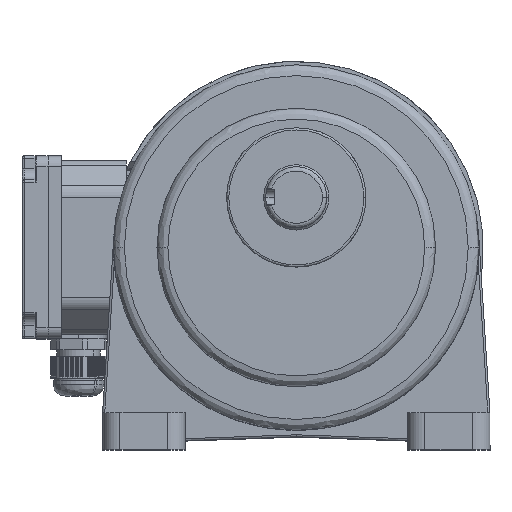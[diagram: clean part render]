
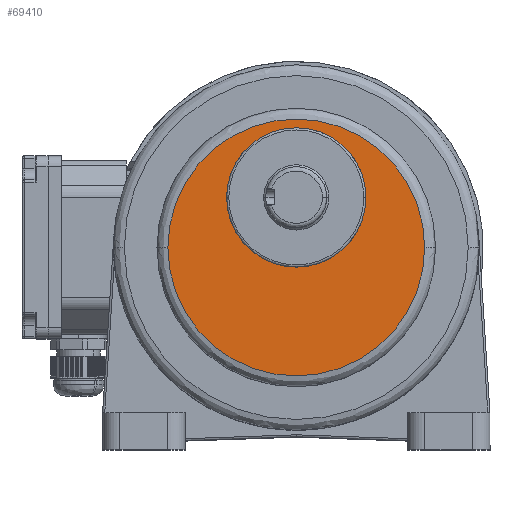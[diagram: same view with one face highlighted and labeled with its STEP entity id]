
A CAD part, top view. The second image highlights one B-rep face of the part: STEP entity #69410.
In plain terms, the highlighted planar face has unit normal (0, 0, 1).
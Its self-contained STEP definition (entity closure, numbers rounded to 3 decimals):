
#17059 = EDGE_CURVE ( 'NONE', #48671, #48673, #85587, .T. ) ;
#17079 = EDGE_CURVE ( 'NONE', #49710, #49718, #85611, .T. ) ;
#17203 = EDGE_CURVE ( 'NONE', #48673, #48671, #85699, .T. ) ;
#17309 = EDGE_CURVE ( 'NONE', #49718, #49710, #85737, .T. ) ;
#17881 = ORIENTED_EDGE ( 'NONE', *, *, #17079, .F. ) ;
#17882 = ORIENTED_EDGE ( 'NONE', *, *, #17309, .F. ) ;
#17883 = ORIENTED_EDGE ( 'NONE', *, *, #17203, .T. ) ;
#17884 = ORIENTED_EDGE ( 'NONE', *, *, #17059, .T. ) ;
#19669 = CARTESIAN_POINT ( 'NONE',  ( -59., 0., 94.5 ) ) ;
#19670 = CARTESIAN_POINT ( 'NONE',  ( 59., 0., 94.5 ) ) ;
#19727 = CARTESIAN_POINT ( 'NONE',  ( 32., 23., 94.5 ) ) ;
#19728 = CARTESIAN_POINT ( 'NONE',  ( -32., 23., 94.5 ) ) ;
#48671 = VERTEX_POINT ( 'NONE', #19669 ) ;
#48673 = VERTEX_POINT ( 'NONE', #19670 ) ;
#49710 = VERTEX_POINT ( 'NONE', #19727 ) ;
#49718 = VERTEX_POINT ( 'NONE', #19728 ) ;
#56435 = PLANE ( 'NONE',  #57253 ) ;
#56436 = CARTESIAN_POINT ( 'NONE',  ( 0., 0., 94.5 ) ) ;
#56437 = DIRECTION ( 'NONE',  ( 0., 0., 1. ) ) ;
#56438 = DIRECTION ( 'NONE',  ( 1., 0., 0. ) ) ;
#57251 = FACE_BOUND ( 'NONE', #61924, .T. ) ;
#57253 = AXIS2_PLACEMENT_3D ( 'NONE', #56436, #56437, #56438 ) ;
#57255 = FACE_OUTER_BOUND ( 'NONE', #61983, .T. ) ;
#58170 = AXIS2_PLACEMENT_3D ( 'NONE', #102067, #102100, #102101 ) ;
#61924 = EDGE_LOOP ( 'NONE', ( #17881, #17882 ) ) ;
#61983 = EDGE_LOOP ( 'NONE', ( #17883, #17884 ) ) ;
#62744 = AXIS2_PLACEMENT_3D ( 'NONE', #98603, #98604, #98605 ) ;
#62959 = AXIS2_PLACEMENT_3D ( 'NONE', #98668, #98675, #98676 ) ;
#63577 = AXIS2_PLACEMENT_3D ( 'NONE', #101447, #101449, #101451 ) ;
#69410 = ADVANCED_FACE ( 'NONE', ( #57251, #57255 ), #56435, .T. ) ;
#85587 = CIRCLE ( 'NONE', #62744, 59. ) ;
#85611 = CIRCLE ( 'NONE', #62959, 32. ) ;
#85699 = CIRCLE ( 'NONE', #63577, 59. ) ;
#85737 = CIRCLE ( 'NONE', #58170, 32. ) ;
#98603 = CARTESIAN_POINT ( 'NONE',  ( 0., 0., 94.5 ) ) ;
#98604 = DIRECTION ( 'NONE',  ( 0., 0., 1. ) ) ;
#98605 = DIRECTION ( 'NONE',  ( 1., 0., 0. ) ) ;
#98668 = CARTESIAN_POINT ( 'NONE',  ( 0., 23., 94.5 ) ) ;
#98675 = DIRECTION ( 'NONE',  ( 0., 0., 1. ) ) ;
#98676 = DIRECTION ( 'NONE',  ( 1., 0., 0. ) ) ;
#101447 = CARTESIAN_POINT ( 'NONE',  ( 0., 0., 94.5 ) ) ;
#101449 = DIRECTION ( 'NONE',  ( 0., 0., 1. ) ) ;
#101451 = DIRECTION ( 'NONE',  ( 1., 0., 0. ) ) ;
#102067 = CARTESIAN_POINT ( 'NONE',  ( 0., 23., 94.5 ) ) ;
#102100 = DIRECTION ( 'NONE',  ( 0., 0., 1. ) ) ;
#102101 = DIRECTION ( 'NONE',  ( 1., 0., 0. ) ) ;
